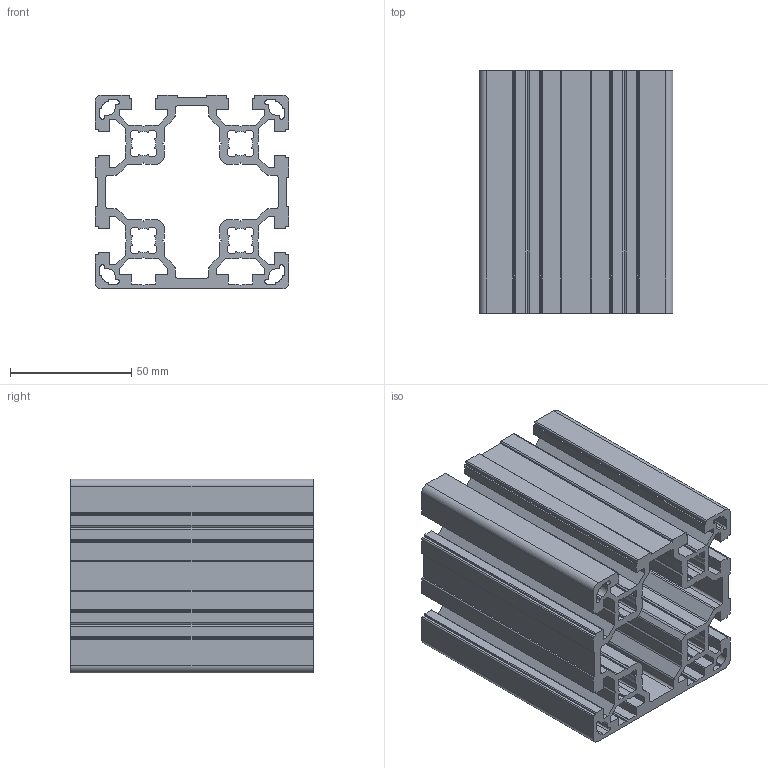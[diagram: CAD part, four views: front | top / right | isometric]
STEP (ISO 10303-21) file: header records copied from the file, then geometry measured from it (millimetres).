
FILE_DESCRIPTION( ( 'Unknown' ), '1' );
FILE_NAME( 'Z:/DBFINAL/Serie1/B-NEU-2018-11-19/B-NEU2019-Entwurf-FINAL/B10-8080L6N.stp', 'Unknown', ( 'Unknown' ), ( 'Unknown' ), 'XStep 1.0', 'Unknown', ' ' );
FILE_SCHEMA( ( 'automotive_design' ) );
Length unit declared in the file: millimetre
Products named in the file (1): 1
Bounding box: 80 x 100 x 80 mm (x, y, z)
Volume: 191760.6 mm3; surface area: 124785 mm2
Topology: 1 solids, 1 shells, 576 faces, 1722 edges, 1148 vertices
Faces by surface type: plane 304, cylinder 272
Entity records: 24178 total; most frequent: CARTESIAN_POINT 3447, ORIENTED_EDGE 3444, DIRECTION 3420, EDGE_CURVE 1722, LINE 1178, VECTOR 1178, VERTEX_POINT 1148, AXIS2_PLACEMENT_3D 1121
